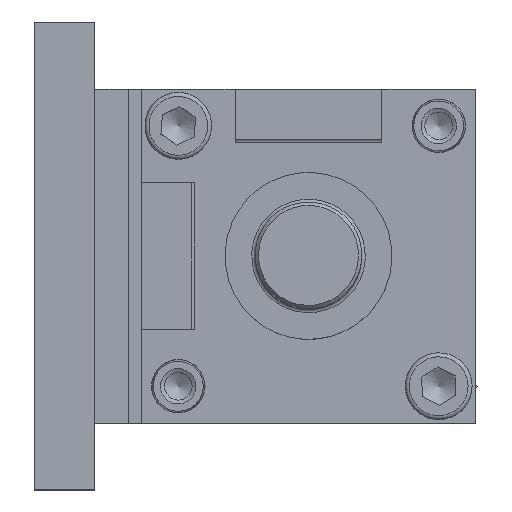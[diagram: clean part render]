
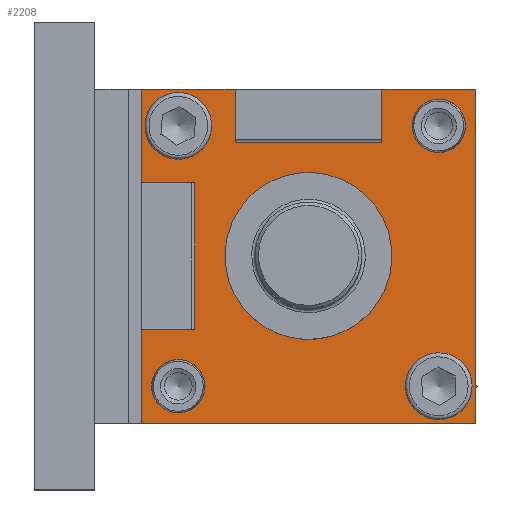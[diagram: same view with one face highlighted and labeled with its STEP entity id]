
A CAD part, top view. The second image highlights one B-rep face of the part: STEP entity #2208.
In plain terms, the highlighted planar face has unit normal (0, 0, 1).
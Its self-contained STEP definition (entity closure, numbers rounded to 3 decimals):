
#187=LINE('',#3481,#305);
#189=LINE('',#3489,#307);
#190=LINE('',#3491,#308);
#191=LINE('',#3493,#309);
#192=LINE('',#3495,#310);
#193=LINE('',#3497,#311);
#194=LINE('',#3499,#312);
#195=LINE('',#3501,#313);
#196=LINE('',#3503,#314);
#197=LINE('',#3505,#315);
#198=LINE('',#3507,#316);
#199=LINE('',#3508,#317);
#305=VECTOR('',#2785,22.);
#307=VECTOR('',#2793,8.);
#308=VECTOR('',#2794,8.);
#309=VECTOR('',#2795,14.);
#310=VECTOR('',#2796,50.);
#311=VECTOR('',#2797,50.);
#312=VECTOR('',#2798,14.);
#313=VECTOR('',#2799,8.);
#314=VECTOR('',#2800,22.);
#315=VECTOR('',#2801,8.);
#316=VECTOR('',#2802,14.);
#317=VECTOR('',#2803,14.);
#424=PLANE('',#2414);
#524=FACE_BOUND('',#812,.T.);
#525=FACE_BOUND('',#813,.T.);
#526=FACE_BOUND('',#814,.T.);
#527=FACE_BOUND('',#815,.T.);
#528=FACE_BOUND('',#816,.T.);
#529=FACE_BOUND('',#817,.T.);
#812=EDGE_LOOP('',(#1686));
#813=EDGE_LOOP('',(#1687,#1688,#1689,#1690,#1691,#1692,#1693,#1694,#1695,
#1696,#1697,#1698));
#814=EDGE_LOOP('',(#1699));
#815=EDGE_LOOP('',(#1700));
#816=EDGE_LOOP('',(#1701));
#817=EDGE_LOOP('',(#1702));
#1046=CIRCLE('',#2415,12.25);
#1047=CIRCLE('',#2416,3.25);
#1048=CIRCLE('',#2417,3.25);
#1049=CIRCLE('',#2418,4.);
#1050=CIRCLE('',#2419,4.);
#1170=VERTEX_POINT('',#3478);
#1171=VERTEX_POINT('',#3480);
#1173=VERTEX_POINT('',#3486);
#1174=VERTEX_POINT('',#3488);
#1175=VERTEX_POINT('',#3490);
#1176=VERTEX_POINT('',#3492);
#1177=VERTEX_POINT('',#3494);
#1178=VERTEX_POINT('',#3496);
#1179=VERTEX_POINT('',#3498);
#1180=VERTEX_POINT('',#3500);
#1181=VERTEX_POINT('',#3502);
#1182=VERTEX_POINT('',#3504);
#1183=VERTEX_POINT('',#3506);
#1184=VERTEX_POINT('',#3509);
#1185=VERTEX_POINT('',#3511);
#1186=VERTEX_POINT('',#3513);
#1187=VERTEX_POINT('',#3515);
#1379=EDGE_CURVE('',#1170,#1171,#187,.T.);
#1382=EDGE_CURVE('',#1173,#1173,#1046,.T.);
#1383=EDGE_CURVE('',#1174,#1171,#189,.T.);
#1384=EDGE_CURVE('',#1175,#1170,#190,.T.);
#1385=EDGE_CURVE('',#1176,#1175,#191,.T.);
#1386=EDGE_CURVE('',#1177,#1176,#192,.T.);
#1387=EDGE_CURVE('',#1178,#1177,#193,.T.);
#1388=EDGE_CURVE('',#1179,#1178,#194,.T.);
#1389=EDGE_CURVE('',#1179,#1180,#195,.T.);
#1390=EDGE_CURVE('',#1181,#1180,#196,.T.);
#1391=EDGE_CURVE('',#1182,#1181,#197,.T.);
#1392=EDGE_CURVE('',#1183,#1182,#198,.T.);
#1393=EDGE_CURVE('',#1174,#1183,#199,.T.);
#1394=EDGE_CURVE('',#1184,#1184,#1047,.T.);
#1395=EDGE_CURVE('',#1185,#1185,#1048,.T.);
#1396=EDGE_CURVE('',#1186,#1186,#1049,.T.);
#1397=EDGE_CURVE('',#1187,#1187,#1050,.T.);
#1686=ORIENTED_EDGE('',*,*,#1382,.F.);
#1687=ORIENTED_EDGE('',*,*,#1383,.T.);
#1688=ORIENTED_EDGE('',*,*,#1379,.F.);
#1689=ORIENTED_EDGE('',*,*,#1384,.F.);
#1690=ORIENTED_EDGE('',*,*,#1385,.F.);
#1691=ORIENTED_EDGE('',*,*,#1386,.F.);
#1692=ORIENTED_EDGE('',*,*,#1387,.F.);
#1693=ORIENTED_EDGE('',*,*,#1388,.F.);
#1694=ORIENTED_EDGE('',*,*,#1389,.T.);
#1695=ORIENTED_EDGE('',*,*,#1390,.F.);
#1696=ORIENTED_EDGE('',*,*,#1391,.F.);
#1697=ORIENTED_EDGE('',*,*,#1392,.F.);
#1698=ORIENTED_EDGE('',*,*,#1393,.F.);
#1699=ORIENTED_EDGE('',*,*,#1394,.F.);
#1700=ORIENTED_EDGE('',*,*,#1395,.F.);
#1701=ORIENTED_EDGE('',*,*,#1396,.F.);
#1702=ORIENTED_EDGE('',*,*,#1397,.F.);
#2208=ADVANCED_FACE('',(#524,#525,#526,#527,#528,#529),#424,.T.);
#2414=AXIS2_PLACEMENT_3D('',#3485,#2789,#2790);
#2415=AXIS2_PLACEMENT_3D('',#3487,#2791,#2792);
#2416=AXIS2_PLACEMENT_3D('',#3510,#2804,#2805);
#2417=AXIS2_PLACEMENT_3D('',#3512,#2806,#2807);
#2418=AXIS2_PLACEMENT_3D('',#3514,#2808,#2809);
#2419=AXIS2_PLACEMENT_3D('',#3516,#2810,#2811);
#2785=DIRECTION('',(-1.,0.,0.));
#2789=DIRECTION('center_axis',(0.,0.,
1.));
#2790=DIRECTION('ref_axis',(1.,0.,0.));
#2791=DIRECTION('center_axis',(0.,0.,
1.));
#2792=DIRECTION('ref_axis',(1.,0.,0.));
#2793=DIRECTION('',(0.,1.,0.));
#2794=DIRECTION('',(0.,1.,0.));
#2795=DIRECTION('',(-1.,0.,0.));
#2796=DIRECTION('',(0.,-1.,0.));
#2797=DIRECTION('',(1.,0.,0.));
#2798=DIRECTION('',(0.,1.,0.));
#2799=DIRECTION('',(1.,0.,0.));
#2800=DIRECTION('',(0.,1.,0.));
#2801=DIRECTION('',(1.,0.,0.));
#2802=DIRECTION('',(0.,1.,0.));
#2803=DIRECTION('',(-1.,0.,0.));
#2804=DIRECTION('center_axis',(0.,0.,
1.));
#2805=DIRECTION('ref_axis',(1.,0.,0.));
#2806=DIRECTION('center_axis',(0.,0.,
1.));
#2807=DIRECTION('ref_axis',(1.,0.,0.));
#2808=DIRECTION('center_axis',(0.,0.,
1.));
#2809=DIRECTION('ref_axis',(1.,0.,0.));
#2810=DIRECTION('center_axis',(0.,0.,
1.));
#2811=DIRECTION('ref_axis',(1.,0.,0.));
#3478=CARTESIAN_POINT('',(11.,-17.,6.));
#3480=CARTESIAN_POINT('',(-11.,-17.,6.));
#3481=CARTESIAN_POINT('',(5.5,-17.,6.));
#3485=CARTESIAN_POINT('Origin',(0.,0.,
6.));
#3486=CARTESIAN_POINT('',(12.25,0.,6.));
#3487=CARTESIAN_POINT('Origin',(0.,0.,6.));
#3488=CARTESIAN_POINT('',(-11.,-25.,6.));
#3489=CARTESIAN_POINT('',(-11.,-8.75,6.));
#3490=CARTESIAN_POINT('',(11.,-25.,6.));
#3491=CARTESIAN_POINT('',(11.,-12.5,6.));
#3492=CARTESIAN_POINT('',(25.,-25.,6.));
#3493=CARTESIAN_POINT('',(12.5,-25.,6.));
#3494=CARTESIAN_POINT('',(25.,25.,6.));
#3495=CARTESIAN_POINT('',(25.,12.5,6.));
#3496=CARTESIAN_POINT('',(-25.,25.,6.));
#3497=CARTESIAN_POINT('',(-12.5,25.,6.));
#3498=CARTESIAN_POINT('',(-25.,11.,6.));
#3499=CARTESIAN_POINT('',(-25.,-12.5,6.));
#3500=CARTESIAN_POINT('',(-17.,11.,6.));
#3501=CARTESIAN_POINT('',(-8.75,11.,6.));
#3502=CARTESIAN_POINT('',(-17.,-11.,6.));
#3503=CARTESIAN_POINT('',(-17.,-5.5,6.));
#3504=CARTESIAN_POINT('',(-25.,-11.,6.));
#3505=CARTESIAN_POINT('',(-12.5,-11.,6.));
#3506=CARTESIAN_POINT('',(-25.,-25.,6.));
#3507=CARTESIAN_POINT('',(-25.,-12.5,6.));
#3508=CARTESIAN_POINT('',(12.5,-25.,6.));
#3509=CARTESIAN_POINT('',(-16.25,-19.5,6.));
#3510=CARTESIAN_POINT('Origin',(-19.5,-19.5,6.));
#3511=CARTESIAN_POINT('',(22.75,19.5,6.));
#3512=CARTESIAN_POINT('Origin',(19.5,19.5,6.));
#3513=CARTESIAN_POINT('',(-15.5,19.5,6.));
#3514=CARTESIAN_POINT('Origin',(-19.5,19.5,6.));
#3515=CARTESIAN_POINT('',(23.5,-19.5,6.));
#3516=CARTESIAN_POINT('Origin',(19.5,-19.5,6.));
